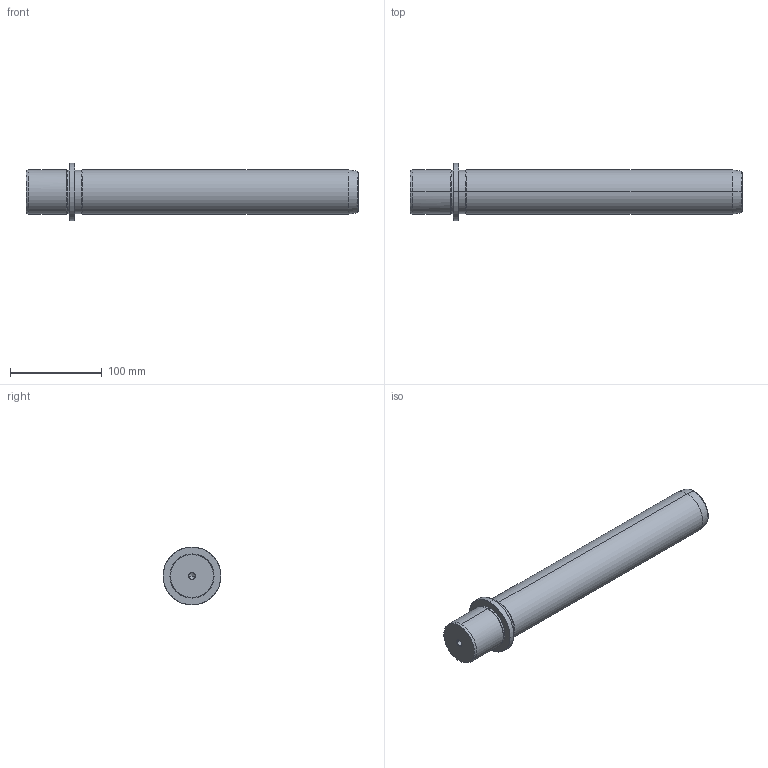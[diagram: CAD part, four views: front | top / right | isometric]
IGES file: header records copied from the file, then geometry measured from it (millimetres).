
Start section: START RECORD GO HERE.
Global section: file name: 719-48x315.igs; native system: DASSAULT SYSTEMES CATIA V5 R20 - www.3ds.com; preprocessor: CATIA Version 5 Release 20 ; author: Utente; organization: NB04-ASUS; date: 20210103.161454; units: millimetre
Bounding box: 362 x 63 x 63 mm (x, y, z)
Surface area: 61914.1 mm2 (no closed solid volume)
Topology: 0 solids, 0 shells, 36 faces, 196 edges, 192 vertices
Faces by surface type: revolution 32, plane 4
